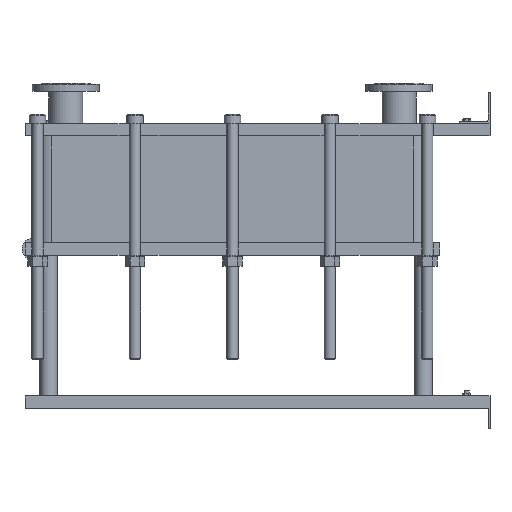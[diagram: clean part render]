
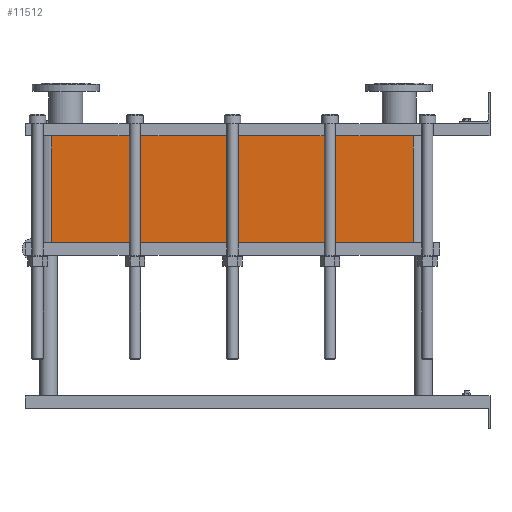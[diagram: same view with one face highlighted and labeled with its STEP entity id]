
A CAD part, left-side view. The second image highlights one B-rep face of the part: STEP entity #11512.
In plain terms, the highlighted planar face has unit normal (-1, 0, 0).
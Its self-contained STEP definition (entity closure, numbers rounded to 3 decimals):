
#1129=LINE('',#23232,#2102);
#1130=LINE('',#23236,#2103);
#1131=LINE('',#23238,#2104);
#1132=LINE('',#23239,#2105);
#2102=VECTOR('',#15887,10.);
#2103=VECTOR('',#15892,10.);
#2104=VECTOR('',#15893,10.);
#2105=VECTOR('',#15894,10.);
#3267=FACE_OUTER_BOUND('',#4093,.T.);
#4093=EDGE_LOOP('',(#10103,#10104,#10105,#10106));
#5642=VERTEX_POINT('',#23229);
#5643=VERTEX_POINT('',#23231);
#5644=VERTEX_POINT('',#23235);
#5645=VERTEX_POINT('',#23237);
#7159=EDGE_CURVE('',#5643,#5642,#1129,.T.);
#7161=EDGE_CURVE('',#5642,#5644,#1130,.T.);
#7162=EDGE_CURVE('',#5645,#5644,#1131,.T.);
#7163=EDGE_CURVE('',#5645,#5643,#1132,.T.);
#10103=ORIENTED_EDGE('',*,*,#7161,.T.);
#10104=ORIENTED_EDGE('',*,*,#7162,.F.);
#10105=ORIENTED_EDGE('',*,*,#7163,.T.);
#10106=ORIENTED_EDGE('',*,*,#7159,.T.);
#10857=PLANE('',#12751);
#11512=ADVANCED_FACE('',(#3267),#10857,.T.);
#12751=AXIS2_PLACEMENT_3D('',#23234,#15890,#15891);
#15887=DIRECTION('',(0.,0.,-1.));
#15890=DIRECTION('center_axis',(-1.,0.,0.));
#15891=DIRECTION('ref_axis',(0.,1.,0.));
#15892=DIRECTION('',(0.,-1.,0.));
#15893=DIRECTION('',(0.,0.,-1.));
#15894=DIRECTION('',(0.,1.,0.));
#23229=CARTESIAN_POINT('',(-200.,1414.,-345.));
#23231=CARTESIAN_POINT('',(-200.,1414.,0.));
#23232=CARTESIAN_POINT('',(-200.,1414.,0.));
#23234=CARTESIAN_POINT('Origin',(-200.,248.,0.));
#23235=CARTESIAN_POINT('',(-200.,248.,-345.));
#23236=CARTESIAN_POINT('',(-200.,539.5,-345.));
#23237=CARTESIAN_POINT('',(-200.,248.,0.));
#23238=CARTESIAN_POINT('',(-200.,248.,0.));
#23239=CARTESIAN_POINT('',(-200.,248.,0.));
